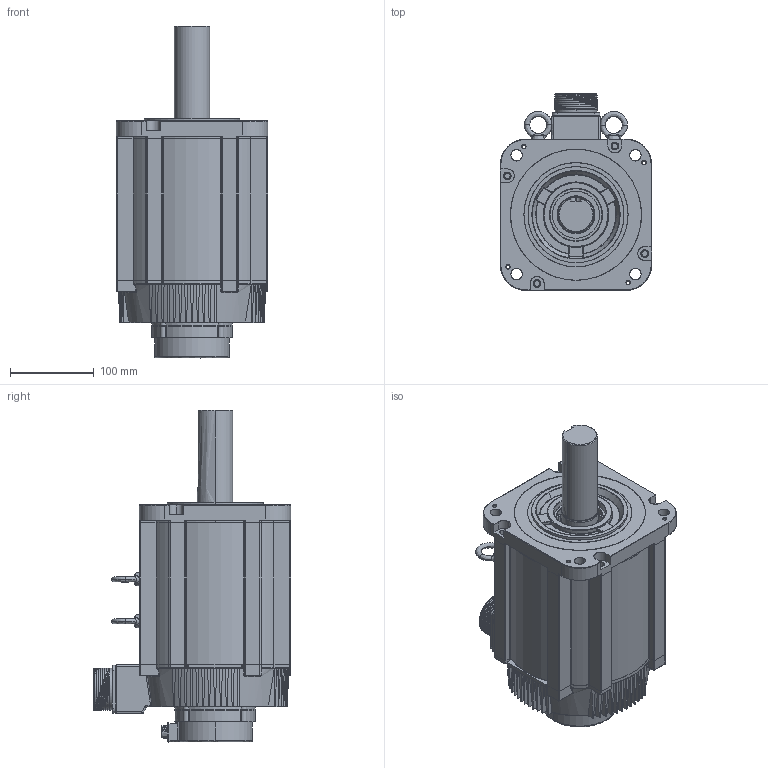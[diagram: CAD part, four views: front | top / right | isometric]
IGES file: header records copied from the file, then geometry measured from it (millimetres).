
Start section: SolidWorks IGES file using analytic representation for surfaces
Global section: file name: C:\Users\11755\Desktop\騰禾380V\外型圖\SMP系列_馬達外型圖(客戶版)\3D-IGES\SMP-H750.IGS; native system: SolidWorks 2016; preprocessor: SolidWorks 2016; author: 11755; date: 210504.135803; units: millimetre
Bounding box: 180 x 234.8 x 395.3 mm (x, y, z)
Surface area: 355705.7 mm2 (no closed solid volume)
Topology: 0 solids, 0 shells, 997 faces, 12279 edges, 12241 vertices
Faces by surface type: revolution 531, bspline 466
